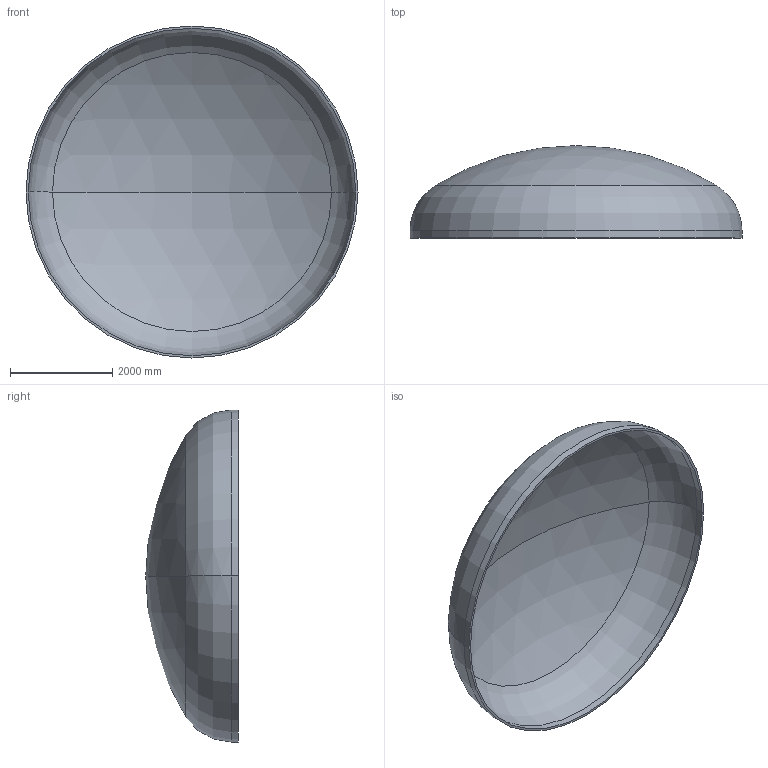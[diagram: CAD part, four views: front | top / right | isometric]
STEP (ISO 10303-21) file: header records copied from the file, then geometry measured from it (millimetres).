
FILE_DESCRIPTION (( 'STEP AP203' ), '1' );
FILE_NAME ('DIN 28013 Korbbogenform_-_Boden DIN 28013 - 6500 x 140 - I - s=44.step', '2016-07-04T10:42:02', ( '' ), ( '' ), 'SwSTEP 2.0', 'SolidWorks 2013', '' );
FILE_SCHEMA (( 'CONFIG_CONTROL_DESIGN' ));
Length unit declared in the file: millimetre
Products named in the file (1): DIN 28013 Korbbogenform_-_Boden DIN 28013 - 6500 x 140 - I - s=44
Bounding box: 6500 x 1809.99 x 6500 mm (x, y, z)
Volume: 2128714009.7 mm3; surface area: 97656158.5 mm2
Topology: 1 solids, 1 shells, 13 faces, 24 edges, 14 vertices
Faces by surface type: torus 4, cylinder 4, sphere 4, plane 1
Entity records: 407 total; most frequent: DIRECTION 72, CARTESIAN_POINT 52, ORIENTED_EDGE 48, AXIS2_PLACEMENT_3D 34, EDGE_CURVE 24, CIRCLE 20, EDGE_LOOP 14, VERTEX_POINT 14
